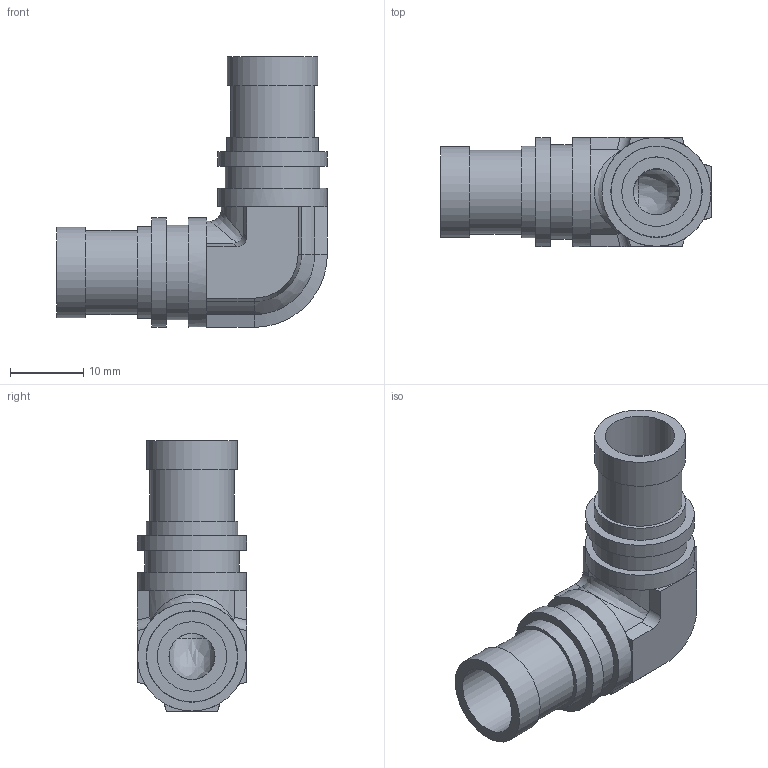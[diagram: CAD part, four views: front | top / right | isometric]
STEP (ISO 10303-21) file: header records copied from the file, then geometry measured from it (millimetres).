
FILE_DESCRIPTION( ( 'Unknown' ), '1' );
FILE_NAME( '//Sv02/01_社内情報/103_技術部/012_図面/図面/電子カタログ-3D/電子カタログ-3D元ファイル(par)/70_3D電子カタログ/03_UE/インチ/70-9.5UE-P.stp', 'Unknown', ( 'Unknown' ), ( 'Unknown' ), 'XStep 1.0', 'Unknown', ' ' );
FILE_SCHEMA( ( 'CONFIG_CONTROL_DESIGN' ) );
Length unit declared in the file: millimetre
Products named in the file (1): 1
Bounding box: 37 x 15 x 37 mm (x, y, z)
Volume: 5904.8 mm3; surface area: 4339.8 mm2
Topology: 1 solids, 1 shells, 75 faces, 161 edges, 98 vertices
Faces by surface type: plane 42, cylinder 25, bspline 4, cone 4
Full cylindrical faces by diameter (mm): 6.3 x2, 9.5 x2, 11.48 x2, 12.43 x2, 12.5 x2, 12.9 x2, 14.9 x4
Entity records: 2204 total; most frequent: CARTESIAN_POINT 603, DIRECTION 342, ORIENTED_EDGE 278, EDGE_CURVE 139, AXIS2_PLACEMENT_3D 137, EDGE_LOOP 105, VERTEX_POINT 94, FACE_OUTER_BOUND 91
